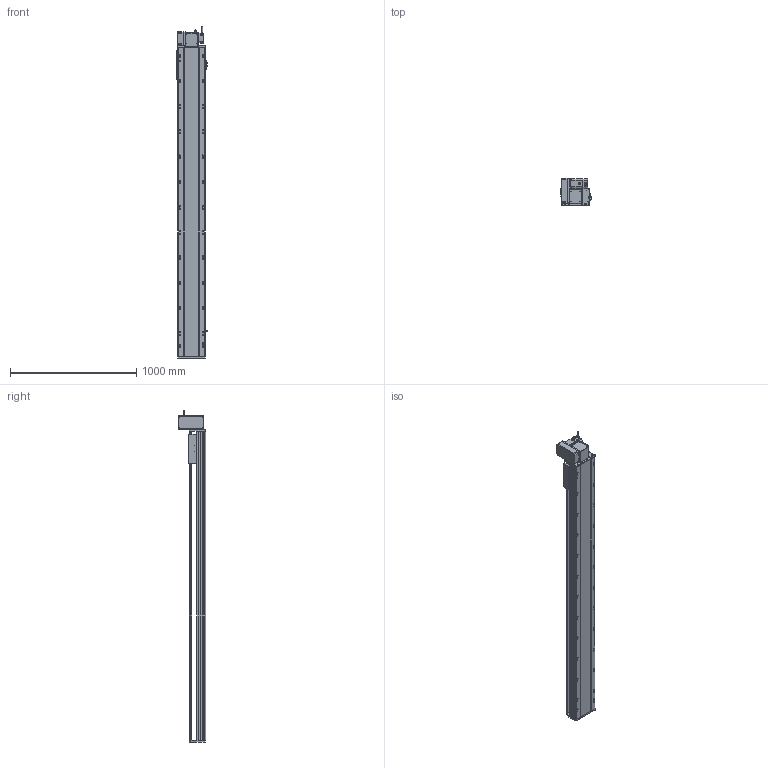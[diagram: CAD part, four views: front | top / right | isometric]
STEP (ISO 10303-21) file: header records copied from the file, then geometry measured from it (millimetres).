
FILE_DESCRIPTION (( 'STEP AP214' ), '1' );
FILE_NAME ('RTB22S-XX-2100-LW-M75-C4.STEP', '2025-12-12T06:01:35', ( '' ), ( '' ), 'SwSTEP 2.0', 'SolidWorks 2018', '' );
FILE_SCHEMA (( 'AUTOMOTIVE_DESIGN' ));
Length unit declared in the file: millimetre
Products named in the file (14): RTB22S-GY-014--々湍釱^RTB22S-LW-々湍釱蚾饜_RTB22S-XX-XX-LW-M75-C4; RTB22S-L-011菁釱^RTB22S-XX-XX-LW-M75-C4; RTB22S-GY-008-M75--萇儂啣^RTB22S-LW-々湍釱蚾饜_RTB22S-XX-XX-LW-M75-C4; RTB22S-GY-005P^RTB22S-LW-々湍釱蚾饜_RTB22S-XX-XX-LW-M75-C4; OMRON EE-SX672 传感器^RTB22S-XX-XX-LW-M75-C4; RTB22S-GY-017P^RTB22S-LW-々湍釱蚾饜_RTB22S-XX-XX-LW-M75-C4; RTB22S-GY-018P^RTB22S-LW-々湍釱蚾饜_RTB22S-XX-XX-LW-M75-C4; RTB22S-XX-2100-LW-M75-C4; RTH22-GY-013外置感应片^RTB22S-XX-XX-LW-M75-C4; RTB22S-LW-々湍釱蚾饜^RTB22S-XX-XX-LW-M75-C4; RTB22S-L-004賑釱^RTB22S-XX-XX-LW-M75-C4; RTB22S-GY-007奻裔^RTB22S-XX-XX-LW-M75-C4; RTB22S-GY-001耜裔^RTB22S-XX-XX-LW-M75-C4; 750W萇儂^RTB22S-XX-XX-LW-M75-C4
Assembly tree (16 placements, depth 3):
  RTB22S-XX-2100-LW-M75-C4
    RTB22S-L-011菁釱^RTB22S-XX-XX-LW-M75-C4
    RTB22S-GY-001耜裔^RTB22S-XX-XX-LW-M75-C4
    750W萇儂^RTB22S-XX-XX-LW-M75-C4
    RTB22S-GY-007奻裔^RTB22S-XX-XX-LW-M75-C4
    RTB22S-L-004賑釱^RTB22S-XX-XX-LW-M75-C4
    RTH22-GY-013外置感应片^RTB22S-XX-XX-LW-M75-C4
    OMRON EE-SX672 传感器^RTB22S-XX-XX-LW-M75-C4  x3
    RTB22S-LW-々湍釱蚾饜^RTB22S-XX-XX-LW-M75-C4
      RTB22S-GY-014--々湍釱^RTB22S-LW-々湍釱蚾饜_RTB22S-XX-XX-LW-M75-C4
      RTB22S-GY-017P^RTB22S-LW-々湍釱蚾饜_RTB22S-XX-XX-LW-M75-C4  x2
      RTB22S-GY-005P^RTB22S-LW-々湍釱蚾饜_RTB22S-XX-XX-LW-M75-C4
      RTB22S-GY-008-M75--萇儂啣^RTB22S-LW-々湍釱蚾饜_RTB22S-XX-XX-LW-M75-C4
      RTB22S-GY-018P^RTB22S-LW-々湍釱蚾饜_RTB22S-XX-XX-LW-M75-C4
Bounding box: 238.5 x 215.5 x 2632.2 mm (x, y, z)
Volume: 34102740.2 mm3; surface area: 3498263.2 mm2
Topology: 15 solids, 15 shells, 2073 faces, 5636 edges, 3602 vertices
Faces by surface type: plane 925, cylinder 682, bspline 296, cone 158, sphere 8, torus 4
Entity records: 56058 total; most frequent: CARTESIAN_POINT 15912, ORIENTED_EDGE 8020, DIRECTION 7804, EDGE_CURVE 4010, AXIS2_PLACEMENT_3D 2786, VERTEX_POINT 2606, VECTOR 2232, LINE 2232
